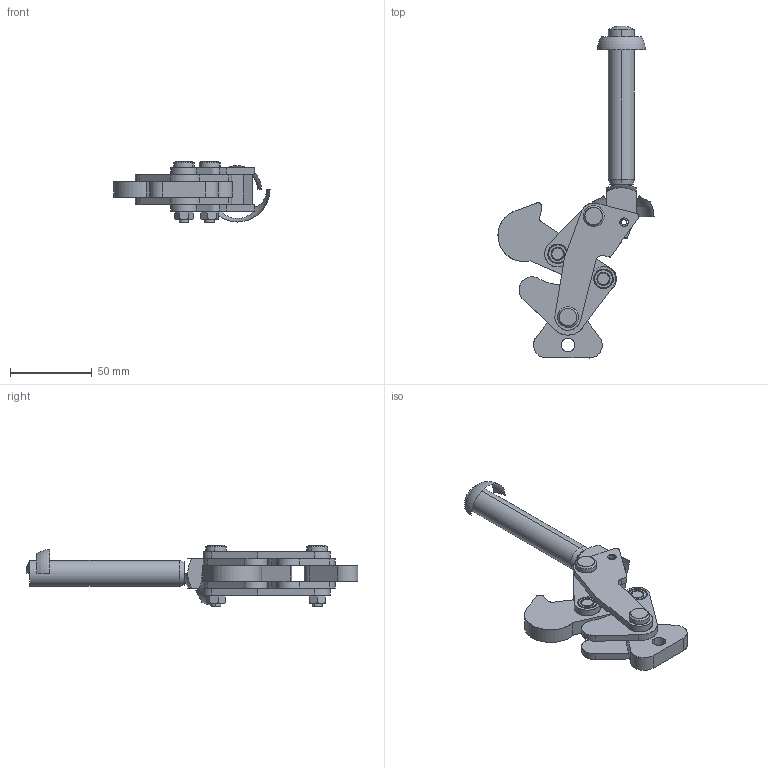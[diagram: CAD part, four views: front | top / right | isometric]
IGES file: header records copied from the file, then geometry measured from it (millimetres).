
Start section: SolidWorks IGES file using analytic representation for surfaces
Global section: file name: C:\Projetos\Grampos\KFU\KFU-03\KFU-03 A.IGS; native system: SolidWorks 2012; preprocessor: SolidWorks 2012; author: Ricardo; date: 121122.164206; units: millimetre
Bounding box: 95.71 x 203.6 x 38 mm (x, y, z)
Surface area: 46693.7 mm2 (no closed solid volume)
Topology: 0 solids, 0 shells, 356 faces, 5867 edges, 5863 vertices
Faces by surface type: revolution 252, bspline 104
